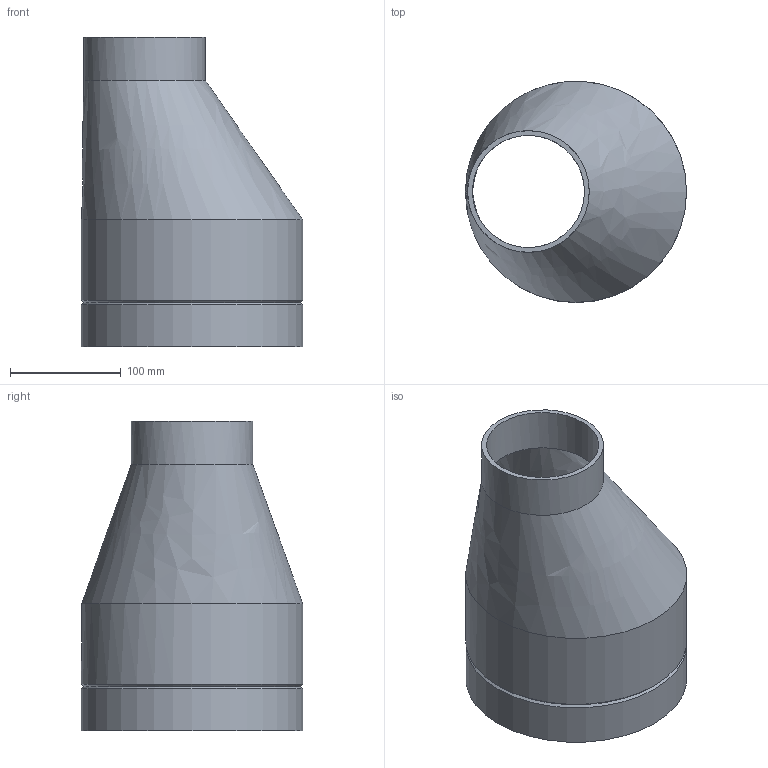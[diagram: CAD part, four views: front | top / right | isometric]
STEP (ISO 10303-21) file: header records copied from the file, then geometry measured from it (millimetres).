
FILE_DESCRIPTION(/* description */ (''),/* implementation_level */ '2;1');
FILE_NAME(/* name */ 'Z:\Geberit\Export\NewStep\370584.stp',/* time_stamp */ '2014-04-02T08:04:14+02:00',/* author */ ('nelson'),/* organization */ (''),/* preprocessor_version */ 'ST-DEVELOPER v15.2',/* originating_system */ 'Autodesk Inventor 2014',/* authorisation */ '');
FILE_SCHEMA (('AUTOMOTIVE_DESIGN { 1 0 10303 214 3 1 1 }'));
Length unit declared in the file: millimetre
Products named in the file (1): 370584
Bounding box: 200 x 200 x 280 mm (x, y, z)
Volume: 804079.6 mm3; surface area: 300636.7 mm2
Topology: 1 solids, 1 shells, 11 faces, 26 edges, 17 vertices
Faces by surface type: cylinder 5, cone 2, bspline 2, plane 2
Full cylindrical faces by diameter (mm): 101.4 x1, 110 x1, 187.6 x1, 200 x2
Entity records: 334 total; most frequent: CARTESIAN_POINT 80, DIRECTION 50, ORIENTED_EDGE 34, AXIS2_PLACEMENT_3D 25, EDGE_LOOP 20, EDGE_CURVE 17, CIRCLE 15, VERTEX_POINT 15
